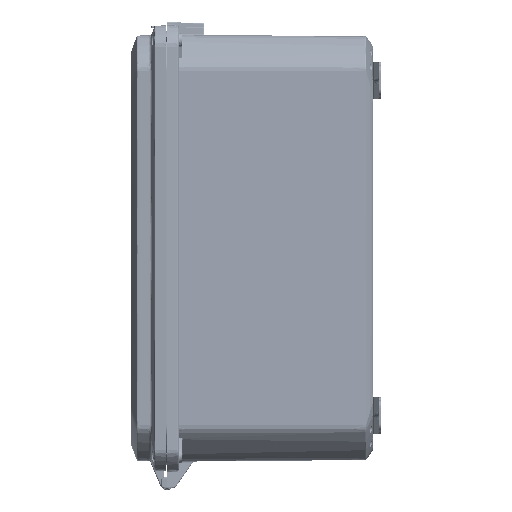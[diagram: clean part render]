
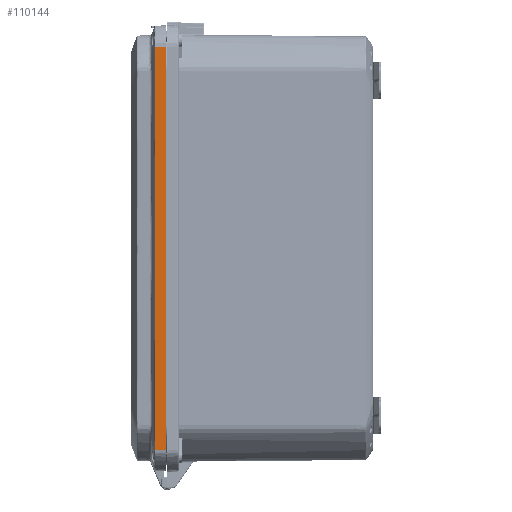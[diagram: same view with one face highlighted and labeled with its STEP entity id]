
A CAD part, left-side view. The second image highlights one B-rep face of the part: STEP entity #110144.
In plain terms, the highlighted planar face has unit normal (-0.999, 0.052, 0).
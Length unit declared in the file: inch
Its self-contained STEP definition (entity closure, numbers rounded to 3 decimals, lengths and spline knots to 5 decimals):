
#6522 = ORIENTED_EDGE ( 'NONE', *, *, #34412, .T. ) ;
#10998 = B_SPLINE_CURVE_WITH_KNOTS ( 'NONE', 3,
 ( #61515, #88160, #175505, #196233 ),
 .UNSPECIFIED., .F., .F.,
 ( 4, 4 ),
 ( 0., 1. ),
 .UNSPECIFIED. ) ;
#13839 = FACE_OUTER_BOUND ( 'NONE', #217097, .T. ) ;
#23177 = CARTESIAN_POINT ( 'NONE',  ( -8.60091, 0.36425, 0. ) ) ;
#34412 = EDGE_CURVE ( 'NONE', #61903, #201549, #175598, .T. ) ;
#45233 = EDGE_CURVE ( 'NONE', #235001, #62565, #97585, .T. ) ;
#51606 = CARTESIAN_POINT ( 'NONE',  ( -8.62, 0., 6.89046 ) ) ;
#61515 = CARTESIAN_POINT ( 'NONE',  ( -8.60093, 0.36382, 6.89046 ) ) ;
#61903 = VERTEX_POINT ( 'NONE', #23177 ) ;
#62565 = VERTEX_POINT ( 'NONE', #272739 ) ;
#79866 = CARTESIAN_POINT ( 'NONE',  ( -8.60093, 0.36396, -4.59364 ) ) ;
#88077 = VECTOR ( 'NONE', #90999, 39.37008 ) ;
#88160 = CARTESIAN_POINT ( 'NONE',  ( -8.60093, 0.36396, 4.59364 ) ) ;
#90999 = DIRECTION ( 'NONE',  ( 0., 0., 1. ) ) ;
#97585 = LINE ( 'NONE', #51606, #150657 ) ;
#105725 = DIRECTION ( 'NONE',  ( -0.052, -0.999, 0. ) ) ;
#110144 = ADVANCED_FACE ( 'NONE', ( #13839 ), #238971, .T. ) ;
#127903 = DIRECTION ( 'NONE',  ( -0.999, 0.052, 0. ) ) ;
#137783 = CARTESIAN_POINT ( 'NONE',  ( -8.62, 0., -6.89046 ) ) ;
#141960 = DIRECTION ( 'NONE',  ( -0.052, -0.999, 0. ) ) ;
#149790 = CARTESIAN_POINT ( 'NONE',  ( -8.62, 0., -6.89046 ) ) ;
#150657 = VECTOR ( 'NONE', #141960, 39.37008 ) ;
#154084 = ORIENTED_EDGE ( 'NONE', *, *, #161751, .T. ) ;
#161751 = EDGE_CURVE ( 'NONE', #279876, #62565, #181249, .T. ) ;
#175505 = CARTESIAN_POINT ( 'NONE',  ( -8.60092, 0.3641, 2.29682 ) ) ;
#175598 = B_SPLINE_CURVE_WITH_KNOTS ( 'NONE', 3,
 ( #175943, #192289, #79866, #260455 ),
 .UNSPECIFIED., .F., .F.,
 ( 4, 4 ),
 ( 0., 1. ),
 .UNSPECIFIED. ) ;
#175943 = CARTESIAN_POINT ( 'NONE',  ( -8.60091, 0.36425, 0. ) ) ;
#179993 = ORIENTED_EDGE ( 'NONE', *, *, #221230, .T. ) ;
#181249 = LINE ( 'NONE', #203460, #88077 ) ;
#183656 = LINE ( 'NONE', #137783, #254545 ) ;
#192289 = CARTESIAN_POINT ( 'NONE',  ( -8.60092, 0.3641, -2.29682 ) ) ;
#196233 = CARTESIAN_POINT ( 'NONE',  ( -8.60091, 0.36425, 0. ) ) ;
#201549 = VERTEX_POINT ( 'NONE', #272521 ) ;
#203460 = CARTESIAN_POINT ( 'NONE',  ( -8.62, 0., -6.89046 ) ) ;
#206812 = ORIENTED_EDGE ( 'NONE', *, *, #45233, .F. ) ;
#217097 = EDGE_LOOP ( 'NONE', ( #227162, #6522, #179993, #154084, #206812 ) ) ;
#221230 = EDGE_CURVE ( 'NONE', #201549, #279876, #183656, .T. ) ;
#227162 = ORIENTED_EDGE ( 'NONE', *, *, #290438, .T. ) ;
#228107 = DIRECTION ( 'NONE',  ( -0.052, -0.999, 0. ) ) ;
#235001 = VERTEX_POINT ( 'NONE', #254641 ) ;
#238971 = PLANE ( 'NONE',  #281979 ) ;
#254545 = VECTOR ( 'NONE', #228107, 39.37008 ) ;
#254641 = CARTESIAN_POINT ( 'NONE',  ( -8.60093, 0.36382, 6.89046 ) ) ;
#260455 = CARTESIAN_POINT ( 'NONE',  ( -8.60093, 0.36382, -6.89046 ) ) ;
#272521 = CARTESIAN_POINT ( 'NONE',  ( -8.60093, 0.36382, -6.89046 ) ) ;
#272739 = CARTESIAN_POINT ( 'NONE',  ( -8.62, 0., 6.89046 ) ) ;
#279876 = VERTEX_POINT ( 'NONE', #149790 ) ;
#281979 = AXIS2_PLACEMENT_3D ( 'NONE', #287872, #127903, #105725 ) ;
#287872 = CARTESIAN_POINT ( 'NONE',  ( -8.62, 0., -6.89046 ) ) ;
#290438 = EDGE_CURVE ( 'NONE', #235001, #61903, #10998, .T. ) ;
